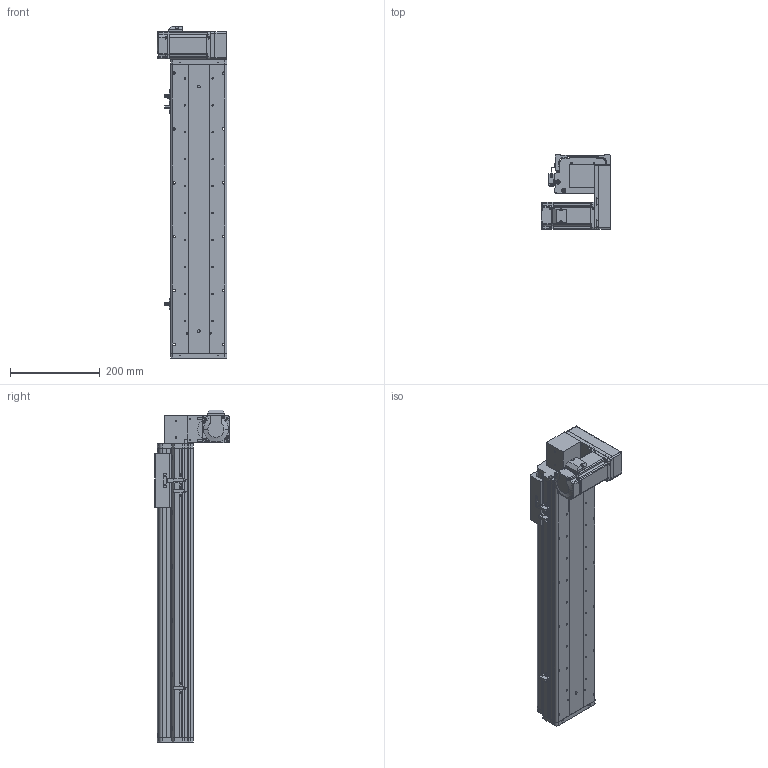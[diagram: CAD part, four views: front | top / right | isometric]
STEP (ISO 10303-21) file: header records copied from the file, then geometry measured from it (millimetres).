
FILE_DESCRIPTION (( 'STEP AP214' ), '1' );
FILE_NAME ('KSD125B-S450-MLD-CM.STEP', '2017-10-21T02:16:17', ( '微软用户' ), ( '微软中国' ), 'SwSTEP 2.0', 'SolidWorks 2014', '' );
FILE_SCHEMA (( 'AUTOMOTIVE_DESIGN' ));
Length unit declared in the file: millimetre
Products named in the file (17): 悵誘欶奻狟殏; 100宽马达安装板连板上下折丝杆同步带; HTPA30S3M150_A_H6_a佪裝蚚; HTPA30S3M150_A_H6_a萇儂蚚; MHMD042G1CA_2_03; 100宽马达安装板同步带左; KSD125模组450行程同步带-防尘盖; 125模组450行程同步带-底板; KSD125模组同步带-防撞垫2; 覜茼え68遵圉猾敕; U倰嫖萇假蚾璃; U倰嫖萇EEㄜSX672; KSD125模组同步带-防撞垫1; 前端板-125宽模组同步带; 125模组同步带-尾端板1; KSD125模组同步带-滑动座1; KSD125B-S450-MLD-CM
Assembly tree (20 placements, depth 2):
  KSD125B-S450-MLD-CM
    KSD125模组同步带-滑动座1
    125模组同步带-尾端板1
    前端板-125宽模组同步带
    KSD125模组同步带-防撞垫1
    U倰嫖萇EEㄜSX672  x3
    U倰嫖萇假蚾璃  x3
    覜茼え68遵圉猾敕
    KSD125模组同步带-防撞垫2
    125模组450行程同步带-底板
    KSD125模组450行程同步带-防尘盖
    100宽马达安装板同步带左
    MHMD042G1CA_2_03
    HTPA30S3M150_A_H6_a萇儂蚚
    HTPA30S3M150_A_H6_a佪裝蚚
    100宽马达安装板连板上下折丝杆同步带
    悵誘欶奻狟殏
Bounding box: 155 x 166.5 x 739 mm (x, y, z)
Volume: 2457131.7 mm3; surface area: 858139.9 mm2
Topology: 19 solids, 22 shells, 2235 faces, 6469 edges, 4274 vertices
Faces by surface type: cylinder 1388, plane 720, cone 105, bspline 22
Entity records: 79151 total; most frequent: CARTESIAN_POINT 15663, DIRECTION 12314, ORIENTED_EDGE 11458, EDGE_CURVE 5807, AXIS2_PLACEMENT_3D 4749, VERTEX_POINT 3866, VECTOR 2816, LINE 2816
